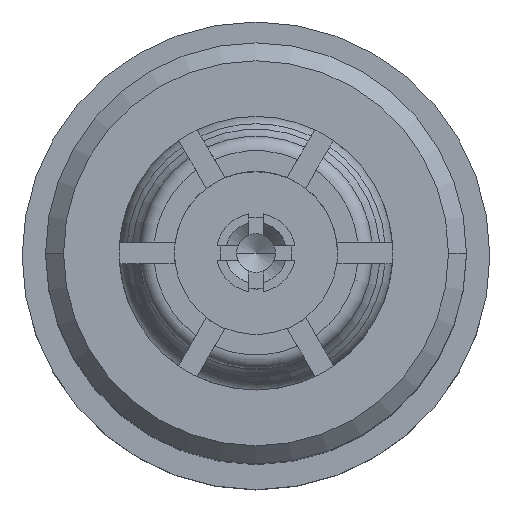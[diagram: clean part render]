
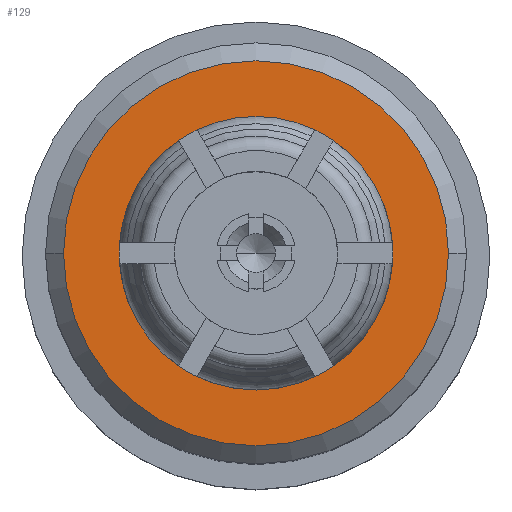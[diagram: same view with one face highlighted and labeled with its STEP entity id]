
A CAD part, top view. The second image highlights one B-rep face of the part: STEP entity #129.
In plain terms, the highlighted planar face has unit normal (0, 0, 1).
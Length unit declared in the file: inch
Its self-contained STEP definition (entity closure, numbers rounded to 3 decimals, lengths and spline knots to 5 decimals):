
#119 = VERTEX_POINT ( 'NONE', #3553 ) ;
#129 = ADVANCED_FACE ( 'NONE', ( #3064, #6291 ), #361, .F. ) ;
#299 = CIRCLE ( 'NONE', #4440, 0.038 ) ;
#361 = PLANE ( 'NONE',  #5411 ) ;
#412 = VERTEX_POINT ( 'NONE', #5367 ) ;
#433 = CARTESIAN_POINT ( 'NONE',  ( 0., 0.038, 0.033 ) ) ;
#878 = CIRCLE ( 'NONE', #6641, 0.0535 ) ;
#1357 = EDGE_LOOP ( 'NONE', ( #2786, #4998 ) ) ;
#1420 = ORIENTED_EDGE ( 'NONE', *, *, #8224, .F. ) ;
#1602 = CARTESIAN_POINT ( 'NONE',  ( 0., 0., 0.033 ) ) ;
#2008 = EDGE_CURVE ( 'NONE', #8835, #119, #8756, .T. ) ;
#2177 = AXIS2_PLACEMENT_3D ( 'NONE', #6672, #7433, #8355 ) ;
#2273 = EDGE_CURVE ( 'NONE', #412, #5110, #299, .T. ) ;
#2786 = ORIENTED_EDGE ( 'NONE', *, *, #2273, .T. ) ;
#2887 = ORIENTED_EDGE ( 'NONE', *, *, #2008, .F. ) ;
#2919 = DIRECTION ( 'NONE',  ( -1., 0., 0. ) ) ;
#3064 = FACE_OUTER_BOUND ( 'NONE', #4348, .T. ) ;
#3283 = DIRECTION ( 'NONE',  ( 0., 0., -1. ) ) ;
#3553 = CARTESIAN_POINT ( 'NONE',  ( -0.0535, 0., 0.033 ) ) ;
#4050 = CARTESIAN_POINT ( 'NONE',  ( 0.0535, 0., 0.033 ) ) ;
#4265 = DIRECTION ( 'NONE',  ( -1., 0., 0. ) ) ;
#4348 = EDGE_LOOP ( 'NONE', ( #1420, #2887 ) ) ;
#4421 = DIRECTION ( 'NONE',  ( -1., 0., 0. ) ) ;
#4440 = AXIS2_PLACEMENT_3D ( 'NONE', #5268, #5235, #2919 ) ;
#4513 = CIRCLE ( 'NONE', #8562, 0.038 ) ;
#4998 = ORIENTED_EDGE ( 'NONE', *, *, #6917, .T. ) ;
#5110 = VERTEX_POINT ( 'NONE', #7149 ) ;
#5235 = DIRECTION ( 'NONE',  ( 0., 0., -1. ) ) ;
#5268 = CARTESIAN_POINT ( 'NONE',  ( 0., 0., 0.033 ) ) ;
#5367 = CARTESIAN_POINT ( 'NONE',  ( -0.038, 0., 0.033 ) ) ;
#5411 = AXIS2_PLACEMENT_3D ( 'NONE', #433, #9156, #4421 ) ;
#5671 = DIRECTION ( 'NONE',  ( -1., 0., 0. ) ) ;
#6291 = FACE_BOUND ( 'NONE', #1357, .T. ) ;
#6616 = CARTESIAN_POINT ( 'NONE',  ( 0., 0., 0.033 ) ) ;
#6641 = AXIS2_PLACEMENT_3D ( 'NONE', #1602, #3283, #5671 ) ;
#6672 = CARTESIAN_POINT ( 'NONE',  ( 0., 0., 0.033 ) ) ;
#6917 = EDGE_CURVE ( 'NONE', #5110, #412, #4513, .T. ) ;
#7149 = CARTESIAN_POINT ( 'NONE',  ( 0.038, 0., 0.033 ) ) ;
#7433 = DIRECTION ( 'NONE',  ( 0., 0., -1. ) ) ;
#8224 = EDGE_CURVE ( 'NONE', #119, #8835, #878, .T. ) ;
#8355 = DIRECTION ( 'NONE',  ( -1., 0., 0. ) ) ;
#8562 = AXIS2_PLACEMENT_3D ( 'NONE', #6616, #9023, #4265 ) ;
#8756 = CIRCLE ( 'NONE', #2177, 0.0535 ) ;
#8835 = VERTEX_POINT ( 'NONE', #4050 ) ;
#9023 = DIRECTION ( 'NONE',  ( 0., 0., -1. ) ) ;
#9156 = DIRECTION ( 'NONE',  ( 0., 0., -1. ) ) ;
